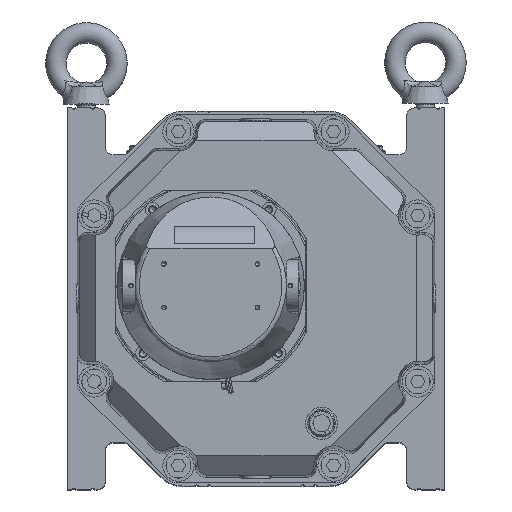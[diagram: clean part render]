
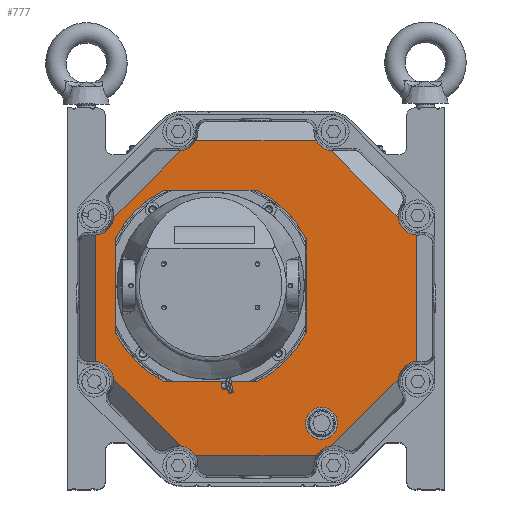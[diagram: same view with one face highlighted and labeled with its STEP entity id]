
A CAD part, top view. The second image highlights one B-rep face of the part: STEP entity #777.
In plain terms, the highlighted planar face has unit normal (0, 0, 1).
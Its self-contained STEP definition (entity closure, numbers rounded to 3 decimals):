
#777=ADVANCED_FACE('',(#14525,#14527,#14529),#14531,.T.);
#14525=FACE_BOUND('',#14526,.T.);
#14526=EDGE_LOOP('',(#31508,#31509,#31510,#31511,#31512,#31513,#31514,#31515,#31516,
#31517,#31518,#31519,#31520,#31521,#31522,#31523));
#14527=FACE_BOUND('',#14528,.T.);
#14528=EDGE_LOOP('',(#31524));
#14529=FACE_BOUND('',#14530,.T.);
#14530=EDGE_LOOP('',(#31525,#31526,#31527,#31528,#31529,#31530,#31531,#31532));
#14531=PLANE('',#14532);
#14532=AXIS2_PLACEMENT_3D('',#14533,#14534,#14535);
#14533=CARTESIAN_POINT('',(0.,0.,242.));
#14534=DIRECTION('',(0.,0.,1.));
#14535=DIRECTION('',(0.,-1.,0.));
#31508=ORIENTED_EDGE('',*,*,#39248,.F.);
#31509=ORIENTED_EDGE('',*,*,#39249,.T.);
#31510=ORIENTED_EDGE('',*,*,#39250,.F.);
#31511=ORIENTED_EDGE('',*,*,#39251,.T.);
#31512=ORIENTED_EDGE('',*,*,#39252,.T.);
#31513=ORIENTED_EDGE('',*,*,#39253,.T.);
#31514=ORIENTED_EDGE('',*,*,#39254,.T.);
#31515=ORIENTED_EDGE('',*,*,#39255,.T.);
#31516=ORIENTED_EDGE('',*,*,#39256,.F.);
#31517=ORIENTED_EDGE('',*,*,#39257,.T.);
#31518=ORIENTED_EDGE('',*,*,#39258,.F.);
#31519=ORIENTED_EDGE('',*,*,#39259,.T.);
#31520=ORIENTED_EDGE('',*,*,#39260,.T.);
#31521=ORIENTED_EDGE('',*,*,#39261,.T.);
#31522=ORIENTED_EDGE('',*,*,#39262,.T.);
#31523=ORIENTED_EDGE('',*,*,#39263,.T.);
#31524=ORIENTED_EDGE('',*,*,#39264,.F.);
#31525=ORIENTED_EDGE('',*,*,#39118,.F.);
#31526=ORIENTED_EDGE('',*,*,#39242,.F.);
#31527=ORIENTED_EDGE('',*,*,#39114,.F.);
#31528=ORIENTED_EDGE('',*,*,#39243,.F.);
#31529=ORIENTED_EDGE('',*,*,#39110,.F.);
#31530=ORIENTED_EDGE('',*,*,#39240,.F.);
#31531=ORIENTED_EDGE('',*,*,#39106,.F.);
#31532=ORIENTED_EDGE('',*,*,#39241,.F.);
#39106=EDGE_CURVE('',#42688,#42690,#42691,.T.);
#39110=EDGE_CURVE('',#42694,#42696,#42697,.T.);
#39114=EDGE_CURVE('',#42700,#42702,#42703,.T.);
#39118=EDGE_CURVE('',#42706,#42708,#42709,.T.);
#39240=EDGE_CURVE('',#42690,#42694,#42912,.T.);
#39241=EDGE_CURVE('',#42708,#42688,#42913,.T.);
#39242=EDGE_CURVE('',#42702,#42706,#42914,.T.);
#39243=EDGE_CURVE('',#42696,#42700,#42915,.T.);
#39248=EDGE_CURVE('',#42924,#42925,#42926,.T.);
#39249=EDGE_CURVE('',#42924,#42927,#42928,.T.);
#39250=EDGE_CURVE('',#42929,#42927,#42930,.T.);
#39251=EDGE_CURVE('',#42929,#42931,#42932,.T.);
#39252=EDGE_CURVE('',#42931,#42933,#42934,.T.);
#39253=EDGE_CURVE('',#42933,#42935,#42936,.T.);
#39254=EDGE_CURVE('',#42935,#42937,#42938,.T.);
#39255=EDGE_CURVE('',#42937,#42939,#42940,.T.);
#39256=EDGE_CURVE('',#42941,#42939,#42942,.T.);
#39257=EDGE_CURVE('',#42941,#42943,#42944,.T.);
#39258=EDGE_CURVE('',#42945,#42943,#42946,.T.);
#39259=EDGE_CURVE('',#42945,#42947,#42948,.T.);
#39260=EDGE_CURVE('',#42947,#42949,#42950,.T.);
#39261=EDGE_CURVE('',#42949,#42951,#42952,.T.);
#39262=EDGE_CURVE('',#42951,#42953,#42954,.T.);
#39263=EDGE_CURVE('',#42953,#42925,#42955,.T.);
#39264=EDGE_CURVE('',#42956,#42956,#42957,.T.);
#42688=VERTEX_POINT('',#49197);
#42690=VERTEX_POINT('',#49201);
#42691=LINE('',#49202,#49203);
#42694=VERTEX_POINT('',#49211);
#42696=VERTEX_POINT('',#49215);
#42697=LINE('',#49216,#49217);
#42700=VERTEX_POINT('',#49225);
#42702=VERTEX_POINT('',#49229);
#42703=LINE('',#49230,#49231);
#42706=VERTEX_POINT('',#49239);
#42708=VERTEX_POINT('',#49243);
#42709=LINE('',#49244,#49245);
#42912=CIRCLE('',#51899,68.052);
#42913=CIRCLE('',#51903,68.052);
#42914=CIRCLE('',#51907,68.052);
#42915=CIRCLE('',#51911,68.052);
#42924=VERTEX_POINT('',#52339);
#42925=VERTEX_POINT('',#52340);
#42926=CIRCLE('',#52341,12.637);
#42927=VERTEX_POINT('',#52345);
#42928=LINE('',#52346,#52347);
#42929=VERTEX_POINT('',#52349);
#42930=CIRCLE('',#52350,12.637);
#42931=VERTEX_POINT('',#52354);
#42932=LINE('',#52355,#52356);
#42933=VERTEX_POINT('',#52358);
#42934=CIRCLE('',#52359,12.637);
#42935=VERTEX_POINT('',#52363);
#42936=LINE('',#52364,#52365);
#42937=VERTEX_POINT('',#52367);
#42938=CIRCLE('',#52368,12.637);
#42939=VERTEX_POINT('',#52372);
#42940=LINE('',#52373,#52374);
#42941=VERTEX_POINT('',#52376);
#42942=CIRCLE('',#52377,12.637);
#42943=VERTEX_POINT('',#52381);
#42944=LINE('',#52382,#52383);
#42945=VERTEX_POINT('',#52385);
#42946=CIRCLE('',#52386,12.637);
#42947=VERTEX_POINT('',#52390);
#42948=LINE('',#52391,#52392);
#42949=VERTEX_POINT('',#52394);
#42950=CIRCLE('',#52395,12.637);
#42951=VERTEX_POINT('',#52399);
#42952=LINE('',#52400,#52401);
#42953=VERTEX_POINT('',#52403);
#42954=CIRCLE('',#52404,12.637);
#42955=LINE('',#52408,#52409);
#42956=VERTEX_POINT('',#52411);
#42957=CIRCLE('',#52412,10.25);
#49197=CARTESIAN_POINT('',(-90.052,38.062,242.));
#49201=CARTESIAN_POINT('',(-90.052,-22.062,242.));
#49202=CARTESIAN_POINT('',(-90.052,38.062,242.));
#49203=VECTOR('',#49204,1.);
#49204=DIRECTION('',(0.,-1.,0.));
#49211=CARTESIAN_POINT('',(-59.062,-53.052,242.));
#49215=CARTESIAN_POINT('',(1.062,-53.052,242.));
#49216=CARTESIAN_POINT('',(-59.062,-53.052,242.));
#49217=VECTOR('',#49218,1.);
#49218=DIRECTION('',(1.,0.,0.));
#49225=CARTESIAN_POINT('',(32.052,-22.062,242.));
#49229=CARTESIAN_POINT('',(32.052,38.062,242.));
#49230=CARTESIAN_POINT('',(32.052,-22.062,242.));
#49231=VECTOR('',#49232,1.);
#49232=DIRECTION('',(0.,1.,0.));
#49239=CARTESIAN_POINT('',(1.062,69.052,242.));
#49243=CARTESIAN_POINT('',(-59.062,69.052,242.));
#49244=CARTESIAN_POINT('',(1.062,69.052,242.));
#49245=VECTOR('',#49246,1.);
#49246=DIRECTION('',(-1.,0.,0.));
#51899=AXIS2_PLACEMENT_3D('',#51900,#51901,#51902);
#51900=CARTESIAN_POINT('',(-29.,8.,242.));
#51901=DIRECTION('',(0.,0.,1.));
#51902=DIRECTION('',(-0.897,-0.442,0.));
#51903=AXIS2_PLACEMENT_3D('',#51904,#51905,#51906);
#51904=CARTESIAN_POINT('',(-29.,8.,242.));
#51905=DIRECTION('',(0.,0.,1.));
#51906=DIRECTION('',(-0.442,0.897,0.));
#51907=AXIS2_PLACEMENT_3D('',#51908,#51909,#51910);
#51908=CARTESIAN_POINT('',(-29.,8.,242.));
#51909=DIRECTION('',(0.,0.,1.));
#51910=DIRECTION('',(0.897,0.442,0.));
#51911=AXIS2_PLACEMENT_3D('',#51912,#51913,#51914);
#51912=CARTESIAN_POINT('',(-29.,8.,242.));
#51913=DIRECTION('',(0.,0.,1.));
#51914=DIRECTION('',(0.442,-0.897,0.));
#52339=CARTESIAN_POINT('',(-48.199,94.443,242.));
#52340=CARTESIAN_POINT('',(-38.569,100.863,242.));
#52341=AXIS2_PLACEMENT_3D('',#52342,#52343,#52344);
#52342=CARTESIAN_POINT('',(-49.615,107.,242.));
#52343=DIRECTION('',(0.,0.,1.));
#52344=DIRECTION('',(0.112,-0.994,0.));
#52345=CARTESIAN_POINT('',(-90.943,51.699,242.));
#52346=CARTESIAN_POINT('',(-48.199,94.443,242.));
#52347=VECTOR('',#52348,1.);
#52348=DIRECTION('',(-0.707,-0.707,0.));
#52349=CARTESIAN_POINT('',(-102.863,40.495,242.));
#52350=AXIS2_PLACEMENT_3D('',#52351,#52352,#52353);
#52351=CARTESIAN_POINT('',(-103.5,53.115,242.));
#52352=DIRECTION('',(0.,0.,1.));
#52353=DIRECTION('',(0.05,-0.999,0.));
#52354=CARTESIAN_POINT('',(-102.863,-40.495,242.));
#52355=CARTESIAN_POINT('',(-102.863,40.495,242.));
#52356=VECTOR('',#52357,1.);
#52357=DIRECTION('',(0.,-1.,0.));
#52358=CARTESIAN_POINT('',(-90.943,-51.699,242.));
#52359=AXIS2_PLACEMENT_3D('',#52360,#52361,#52362);
#52360=CARTESIAN_POINT('',(-103.5,-53.115,242.));
#52361=DIRECTION('',(0.,0.,-1.));
#52362=DIRECTION('',(0.05,0.999,0.));
#52363=CARTESIAN_POINT('',(-48.199,-94.443,242.));
#52364=CARTESIAN_POINT('',(-90.943,-51.699,242.));
#52365=VECTOR('',#52366,1.);
#52366=DIRECTION('',(0.707,-0.707,0.));
#52367=CARTESIAN_POINT('',(-38.569,-100.863,242.));
#52368=AXIS2_PLACEMENT_3D('',#52369,#52370,#52371);
#52369=CARTESIAN_POINT('',(-49.615,-107.,242.));
#52370=DIRECTION('',(0.,0.,-1.));
#52371=DIRECTION('',(0.112,0.994,0.));
#52372=CARTESIAN_POINT('',(38.569,-100.863,242.));
#52373=CARTESIAN_POINT('',(-38.569,-100.863,242.));
#52374=VECTOR('',#52375,1.);
#52375=DIRECTION('',(1.,0.,0.));
#52376=CARTESIAN_POINT('',(48.199,-94.443,242.));
#52377=AXIS2_PLACEMENT_3D('',#52378,#52379,#52380);
#52378=CARTESIAN_POINT('',(49.615,-107.,242.));
#52379=DIRECTION('',(0.,0.,1.));
#52380=DIRECTION('',(-0.112,0.994,0.));
#52381=CARTESIAN_POINT('',(90.943,-51.699,242.));
#52382=CARTESIAN_POINT('',(48.199,-94.443,242.));
#52383=VECTOR('',#52384,1.);
#52384=DIRECTION('',(0.707,0.707,0.));
#52385=CARTESIAN_POINT('',(102.863,-40.495,242.));
#52386=AXIS2_PLACEMENT_3D('',#52387,#52388,#52389);
#52387=CARTESIAN_POINT('',(103.5,-53.115,242.));
#52388=DIRECTION('',(0.,0.,1.));
#52389=DIRECTION('',(-0.05,0.999,0.));
#52390=CARTESIAN_POINT('',(102.863,40.495,242.));
#52391=CARTESIAN_POINT('',(102.863,-40.495,242.));
#52392=VECTOR('',#52393,1.);
#52393=DIRECTION('',(0.,1.,0.));
#52394=CARTESIAN_POINT('',(90.943,51.699,242.));
#52395=AXIS2_PLACEMENT_3D('',#52396,#52397,#52398);
#52396=CARTESIAN_POINT('',(103.5,53.115,242.));
#52397=DIRECTION('',(0.,0.,-1.));
#52398=DIRECTION('',(-0.05,-0.999,0.));
#52399=CARTESIAN_POINT('',(48.199,94.443,242.));
#52400=CARTESIAN_POINT('',(90.943,51.699,242.));
#52401=VECTOR('',#52402,1.);
#52402=DIRECTION('',(-0.707,0.707,0.));
#52403=CARTESIAN_POINT('',(38.569,100.863,242.));
#52404=AXIS2_PLACEMENT_3D('',#52405,#52406,#52407);
#52405=CARTESIAN_POINT('',(49.615,107.,242.));
#52406=DIRECTION('',(0.,0.,-1.));
#52407=DIRECTION('',(-0.112,-0.994,0.));
#52408=CARTESIAN_POINT('',(38.569,100.863,242.));
#52409=VECTOR('',#52410,1.);
#52410=DIRECTION('',(-1.,0.,0.));
#52411=CARTESIAN_POINT('',(42.,-90.25,242.));
#52412=AXIS2_PLACEMENT_3D('',#52413,#52414,#52415);
#52413=CARTESIAN_POINT('',(42.,-80.,242.));
#52414=DIRECTION('',(0.,0.,1.));
#52415=DIRECTION('',(0.,1.,0.));
